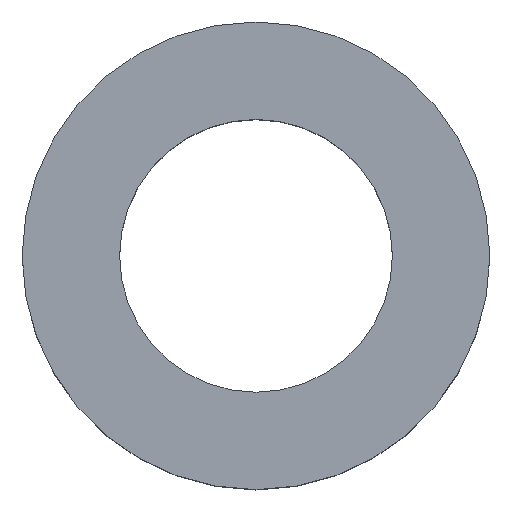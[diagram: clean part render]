
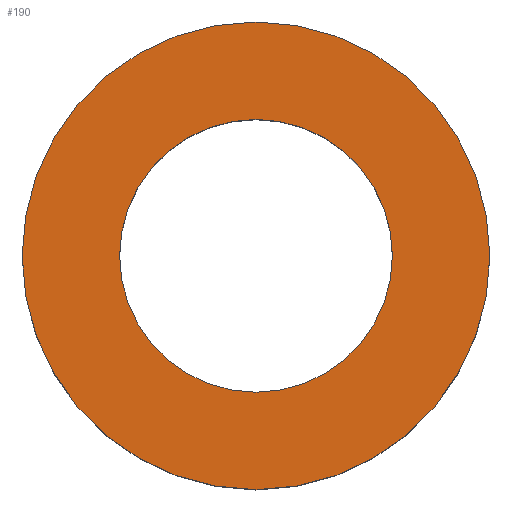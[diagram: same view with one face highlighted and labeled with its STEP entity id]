
A CAD part, top view. The second image highlights one B-rep face of the part: STEP entity #190.
In plain terms, the highlighted planar face has unit normal (0, 0, 1).
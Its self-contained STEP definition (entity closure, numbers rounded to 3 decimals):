
#24 = VERTEX_POINT('',#25);
#25 = CARTESIAN_POINT('',(18.,0.,16.));
#32 = CYLINDRICAL_SURFACE('',#33,18.);
#33 = AXIS2_PLACEMENT_3D('',#34,#35,#36);
#34 = CARTESIAN_POINT('',(0.,0.,0.));
#35 = DIRECTION('',(-0.,-0.,-1.));
#36 = DIRECTION('',(1.,0.,-0.));
#51 = EDGE_CURVE('',#24,#24,#52,.T.);
#52 = SURFACE_CURVE('',#53,(#58,#65),.PCURVE_S1.);
#53 = CIRCLE('',#54,18.);
#54 = AXIS2_PLACEMENT_3D('',#55,#56,#57);
#55 = CARTESIAN_POINT('',(0.,0.,16.));
#56 = DIRECTION('',(0.,0.,1.));
#57 = DIRECTION('',(1.,0.,-0.));
#58 = PCURVE('',#32,#59);
#59 = DEFINITIONAL_REPRESENTATION('',(#60),#64);
#60 = LINE('',#61,#62);
#61 = CARTESIAN_POINT('',(-0.,-16.));
#62 = VECTOR('',#63,1.);
#63 = DIRECTION('',(-1.,0.));
#64 = ( GEOMETRIC_REPRESENTATION_CONTEXT(2) 
PARAMETRIC_REPRESENTATION_CONTEXT() REPRESENTATION_CONTEXT('2D SPACE',''
  ) );
#65 = PCURVE('',#66,#71);
#66 = PLANE('',#67);
#67 = AXIS2_PLACEMENT_3D('',#68,#69,#70);
#68 = CARTESIAN_POINT('',(0.,0.,16.));
#69 = DIRECTION('',(0.,0.,1.));
#70 = DIRECTION('',(1.,0.,-0.));
#71 = DEFINITIONAL_REPRESENTATION('',(#72),#76);
#72 = CIRCLE('',#73,18.);
#73 = AXIS2_PLACEMENT_2D('',#74,#75);
#74 = CARTESIAN_POINT('',(0.,0.));
#75 = DIRECTION('',(1.,0.));
#76 = ( GEOMETRIC_REPRESENTATION_CONTEXT(2) 
PARAMETRIC_REPRESENTATION_CONTEXT() REPRESENTATION_CONTEXT('2D SPACE',''
  ) );
#112 = VERTEX_POINT('',#113);
#113 = CARTESIAN_POINT('',(10.5,0.,16.));
#120 = CYLINDRICAL_SURFACE('',#121,10.5);
#121 = AXIS2_PLACEMENT_3D('',#122,#123,#124);
#122 = CARTESIAN_POINT('',(0.,0.,0.));
#123 = DIRECTION('',(-0.,-0.,-1.));
#124 = DIRECTION('',(1.,0.,-0.));
#139 = EDGE_CURVE('',#112,#112,#140,.T.);
#140 = SURFACE_CURVE('',#141,(#146,#153),.PCURVE_S1.);
#141 = CIRCLE('',#142,10.5);
#142 = AXIS2_PLACEMENT_3D('',#143,#144,#145);
#143 = CARTESIAN_POINT('',(0.,0.,16.));
#144 = DIRECTION('',(0.,0.,1.));
#145 = DIRECTION('',(1.,0.,-0.));
#146 = PCURVE('',#120,#147);
#147 = DEFINITIONAL_REPRESENTATION('',(#148),#152);
#148 = LINE('',#149,#150);
#149 = CARTESIAN_POINT('',(-0.,-16.));
#150 = VECTOR('',#151,1.);
#151 = DIRECTION('',(-1.,0.));
#152 = ( GEOMETRIC_REPRESENTATION_CONTEXT(2) 
PARAMETRIC_REPRESENTATION_CONTEXT() REPRESENTATION_CONTEXT('2D SPACE',''
  ) );
#153 = PCURVE('',#66,#154);
#154 = DEFINITIONAL_REPRESENTATION('',(#155),#159);
#155 = CIRCLE('',#156,10.5);
#156 = AXIS2_PLACEMENT_2D('',#157,#158);
#157 = CARTESIAN_POINT('',(0.,0.));
#158 = DIRECTION('',(1.,0.));
#159 = ( GEOMETRIC_REPRESENTATION_CONTEXT(2) 
PARAMETRIC_REPRESENTATION_CONTEXT() REPRESENTATION_CONTEXT('2D SPACE',''
  ) );
#190 = ADVANCED_FACE('',(#191,#194),#66,.T.);
#191 = FACE_BOUND('',#192,.T.);
#192 = EDGE_LOOP('',(#193));
#193 = ORIENTED_EDGE('',*,*,#51,.T.);
#194 = FACE_BOUND('',#195,.F.);
#195 = EDGE_LOOP('',(#196));
#196 = ORIENTED_EDGE('',*,*,#139,.T.);
